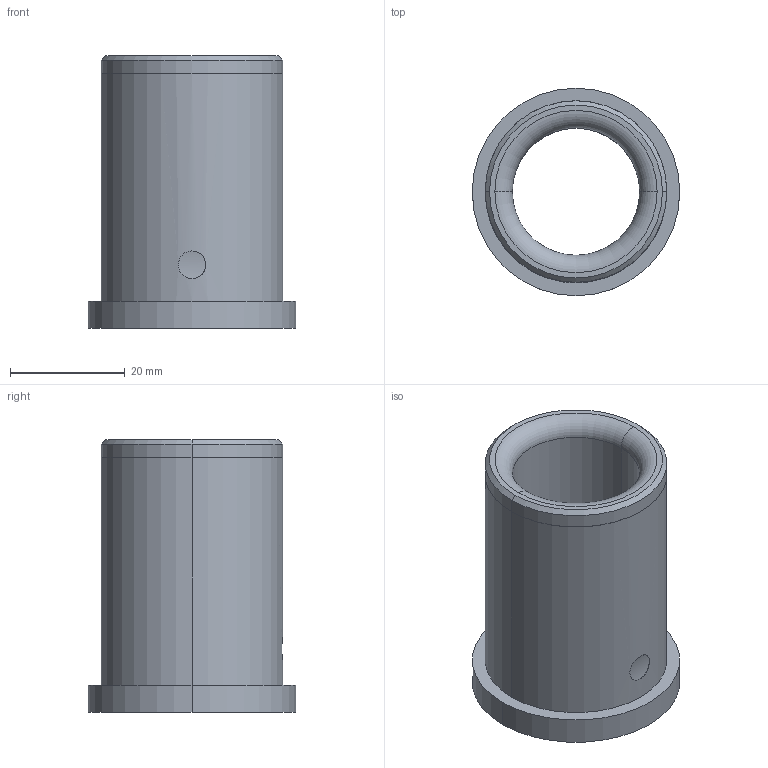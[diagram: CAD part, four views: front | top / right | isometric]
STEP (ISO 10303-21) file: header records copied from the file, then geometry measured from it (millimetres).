
FILE_DESCRIPTION (( 'STEP AP214' ), '1' );
FILE_NAME ('S875-15G.step', '2024-07-23T19:25:08', ( '' ), ( '' ), 'SwSTEP 2.0', 'SolidWorks 2017', '' );
FILE_SCHEMA (( 'AUTOMOTIVE_DESIGN' ));
Length unit declared in the file: inch
Products named in the file (1): S875-15G
Bounding box: 36.25 x 36.25 x 47.62 mm (x, y, z)
Volume: 20100.4 mm3; surface area: 9238.3 mm2
Topology: 1 solids, 1 shells, 21 faces, 42 edges, 26 vertices
Faces by surface type: cylinder 9, cone 4, plane 4, bspline 2, torus 2
Entity records: 825 total; most frequent: CARTESIAN_POINT 294, DIRECTION 102, ORIENTED_EDGE 84, AXIS2_PLACEMENT_3D 44, EDGE_CURVE 42, EDGE_LOOP 26, VERTEX_POINT 26, CIRCLE 24
